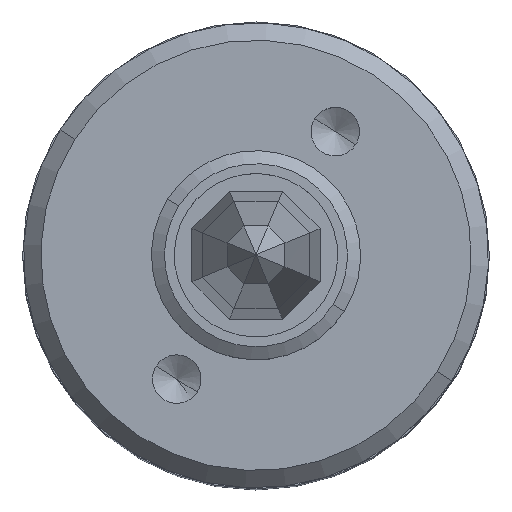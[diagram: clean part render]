
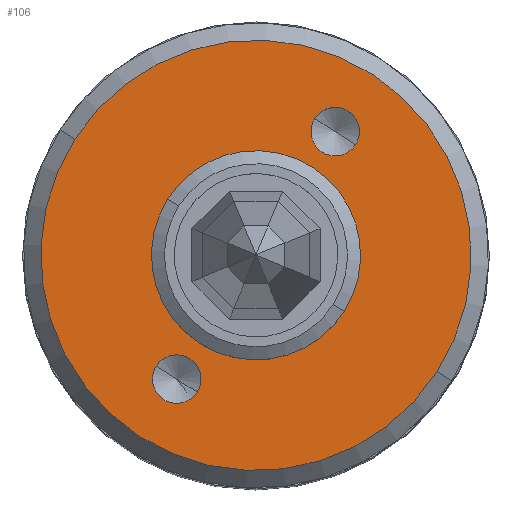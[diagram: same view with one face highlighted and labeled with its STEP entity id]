
A CAD part, top view. The second image highlights one B-rep face of the part: STEP entity #106.
In plain terms, the highlighted planar face has unit normal (0, 0, 1) as drawn and (1, 0, 0) by its records, which use the part's own axes.
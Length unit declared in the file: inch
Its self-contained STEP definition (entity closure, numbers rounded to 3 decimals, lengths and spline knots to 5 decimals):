
#87 = ORIENTED_EDGE ( 'NONE', *, *, #121, .T. ) ;
#106 = ADVANCED_FACE ( 'NONE', ( #1339, #1271, #1270, #1269 ), #1268, .T. ) ;
#108 = ORIENTED_EDGE ( 'NONE', *, *, #829, .T. ) ;
#109 = EDGE_LOOP ( 'NONE', ( #110, #87 ) ) ;
#110 = ORIENTED_EDGE ( 'NONE', *, *, #870, .T. ) ;
#111 = EDGE_CURVE ( 'NONE', #1030, #831, #1262, .T. ) ;
#112 = EDGE_LOOP ( 'NONE', ( #115, #116 ) ) ;
#113 = ORIENTED_EDGE ( 'NONE', *, *, #143, .T. ) ;
#114 = EDGE_LOOP ( 'NONE', ( #113, #108 ) ) ;
#115 = ORIENTED_EDGE ( 'NONE', *, *, #1020, .T. ) ;
#116 = ORIENTED_EDGE ( 'NONE', *, *, #111, .T. ) ;
#118 = EDGE_CURVE ( 'NONE', #566, #567, #1308, .T. ) ;
#121 = EDGE_CURVE ( 'NONE', #868, #871, #1303, .T. ) ;
#131 = ORIENTED_EDGE ( 'NONE', *, *, #606, .T. ) ;
#133 = ORIENTED_EDGE ( 'NONE', *, *, #118, .T. ) ;
#143 = EDGE_CURVE ( 'NONE', #830, #815, #1546, .T. ) ;
#210 = EDGE_LOOP ( 'NONE', ( #131, #133 ) ) ;
#566 = VERTEX_POINT ( 'NONE', #2241 ) ;
#567 = VERTEX_POINT ( 'NONE', #2240 ) ;
#606 = EDGE_CURVE ( 'NONE', #567, #566, #2407, .T. ) ;
#815 = VERTEX_POINT ( 'NONE', #2766 ) ;
#829 = EDGE_CURVE ( 'NONE', #815, #830, #2810, .T. ) ;
#830 = VERTEX_POINT ( 'NONE', #2805 ) ;
#831 = VERTEX_POINT ( 'NONE', #2804 ) ;
#868 = VERTEX_POINT ( 'NONE', #2865 ) ;
#870 = EDGE_CURVE ( 'NONE', #871, #868, #2827, .T. ) ;
#871 = VERTEX_POINT ( 'NONE', #2822 ) ;
#1020 = EDGE_CURVE ( 'NONE', #831, #1030, #3263, .T. ) ;
#1030 = VERTEX_POINT ( 'NONE', #3310 ) ;
#1262 = CIRCLE ( 'NONE', #1312, 0.49 ) ;
#1263 = DIRECTION ( 'NONE',  ( 0., 0., -1. ) ) ;
#1264 = DIRECTION ( 'NONE',  ( 1., 0., 0. ) ) ;
#1265 = CARTESIAN_POINT ( 'NONE',  ( -18.02535, 4.26787, -0.46702 ) ) ;
#1266 = AXIS2_PLACEMENT_3D ( 'NONE', #1265, #1264, #1263 ) ;
#1268 = PLANE ( 'NONE',  #1266 ) ;
#1269 = FACE_BOUND ( 'NONE', #210, .T. ) ;
#1270 = FACE_BOUND ( 'NONE', #109, .T. ) ;
#1271 = FACE_OUTER_BOUND ( 'NONE', #114, .T. ) ;
#1299 = DIRECTION ( 'NONE',  ( 0., 0., -1. ) ) ;
#1300 = DIRECTION ( 'NONE',  ( -1., 0., 0. ) ) ;
#1301 = CARTESIAN_POINT ( 'NONE',  ( -18.02535, 4.23362, -0.46702 ) ) ;
#1302 = AXIS2_PLACEMENT_3D ( 'NONE', #1301, #1300, #1299 ) ;
#1303 = CIRCLE ( 'NONE', #1302, 0.13 ) ;
#1305 = DIRECTION ( 'NONE',  ( 0., 0., -1. ) ) ;
#1306 = DIRECTION ( 'NONE',  ( -1., 0., 0. ) ) ;
#1307 = AXIS2_PLACEMENT_3D ( 'NONE', #1313, #1306, #1305 ) ;
#1308 = CIRCLE ( 'NONE', #1307, 0.13 ) ;
#1309 = DIRECTION ( 'NONE',  ( 0., 0., 1. ) ) ;
#1310 = DIRECTION ( 'NONE',  ( -1., 0., 0. ) ) ;
#1311 = CARTESIAN_POINT ( 'NONE',  ( -18.02535, 3.44662, -0.46702 ) ) ;
#1312 = AXIS2_PLACEMENT_3D ( 'NONE', #1311, #1310, #1309 ) ;
#1313 = CARTESIAN_POINT ( 'NONE',  ( -18.02535, 2.65962, -0.46702 ) ) ;
#1339 = FACE_BOUND ( 'NONE', #112, .T. ) ;
#1526 = DIRECTION ( 'NONE',  ( 0., 0., 1. ) ) ;
#1527 = DIRECTION ( 'NONE',  ( 1., 0., 0. ) ) ;
#1528 = AXIS2_PLACEMENT_3D ( 'NONE', #1545, #1527, #1526 ) ;
#1545 = CARTESIAN_POINT ( 'NONE',  ( -18.02535, 3.44662, -0.46702 ) ) ;
#1546 = CIRCLE ( 'NONE', #1528, 1.1525 ) ;
#2240 = CARTESIAN_POINT ( 'NONE',  ( -18.02535, 2.65962, -0.59702 ) ) ;
#2241 = CARTESIAN_POINT ( 'NONE',  ( -18.02535, 2.65962, -0.33702 ) ) ;
#2403 = DIRECTION ( 'NONE',  ( 0., 0., -1. ) ) ;
#2404 = DIRECTION ( 'NONE',  ( -1., 0., 0. ) ) ;
#2405 = CARTESIAN_POINT ( 'NONE',  ( -18.02535, 2.65962, -0.46702 ) ) ;
#2406 = AXIS2_PLACEMENT_3D ( 'NONE', #2405, #2404, #2403 ) ;
#2407 = CIRCLE ( 'NONE', #2406, 0.13 ) ;
#2766 = CARTESIAN_POINT ( 'NONE',  ( -18.02535, 3.44662, -1.61952 ) ) ;
#2804 = CARTESIAN_POINT ( 'NONE',  ( -18.02535, 3.44662, 0.02298 ) ) ;
#2805 = CARTESIAN_POINT ( 'NONE',  ( -18.02535, 3.44662, 0.68548 ) ) ;
#2806 = DIRECTION ( 'NONE',  ( 0., 0., 1. ) ) ;
#2807 = DIRECTION ( 'NONE',  ( 1., 0., 0. ) ) ;
#2808 = CARTESIAN_POINT ( 'NONE',  ( -18.02535, 3.44662, -0.46702 ) ) ;
#2809 = AXIS2_PLACEMENT_3D ( 'NONE', #2808, #2807, #2806 ) ;
#2810 = CIRCLE ( 'NONE', #2809, 1.1525 ) ;
#2822 = CARTESIAN_POINT ( 'NONE',  ( -18.02535, 4.23362, -0.59702 ) ) ;
#2823 = DIRECTION ( 'NONE',  ( 0., 0., -1. ) ) ;
#2824 = DIRECTION ( 'NONE',  ( -1., 0., 0. ) ) ;
#2825 = CARTESIAN_POINT ( 'NONE',  ( -18.02535, 4.23362, -0.46702 ) ) ;
#2826 = AXIS2_PLACEMENT_3D ( 'NONE', #2825, #2824, #2823 ) ;
#2827 = CIRCLE ( 'NONE', #2826, 0.13 ) ;
#2865 = CARTESIAN_POINT ( 'NONE',  ( -18.02535, 4.23362, -0.33702 ) ) ;
#3258 = DIRECTION ( 'NONE',  ( 0., 0., 1. ) ) ;
#3259 = DIRECTION ( 'NONE',  ( -1., 0., 0. ) ) ;
#3260 = CARTESIAN_POINT ( 'NONE',  ( -18.02535, 3.44662, -0.46702 ) ) ;
#3261 = AXIS2_PLACEMENT_3D ( 'NONE', #3260, #3259, #3258 ) ;
#3263 = CIRCLE ( 'NONE', #3261, 0.49 ) ;
#3310 = CARTESIAN_POINT ( 'NONE',  ( -18.02535, 3.44662, -0.95702 ) ) ;
